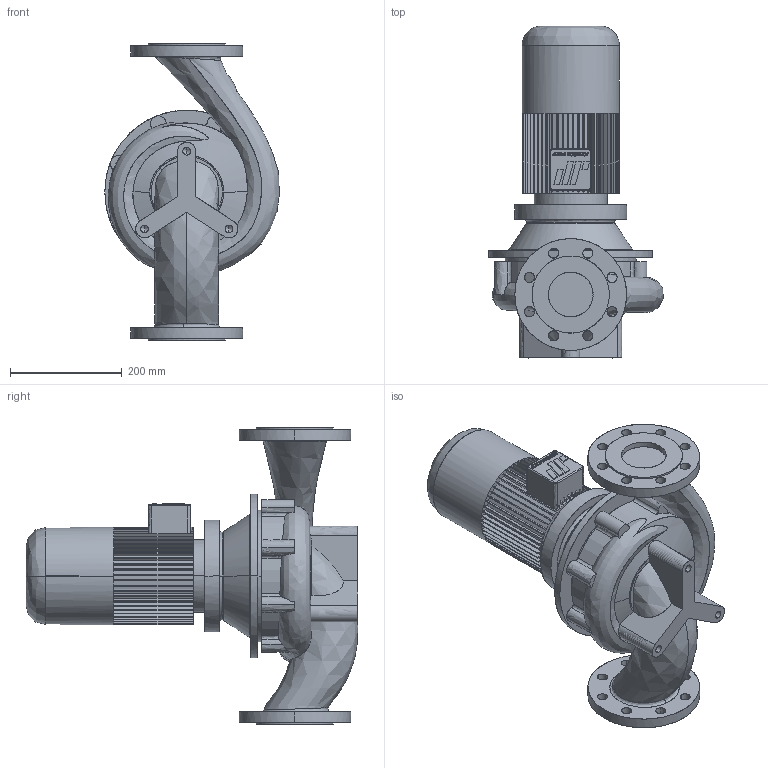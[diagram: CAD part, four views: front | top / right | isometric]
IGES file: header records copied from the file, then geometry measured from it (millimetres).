
Start section: CombiLine
Global section: file name: CLB_80-200_IEC90L_ND10.igs; native system:  By UGS Corp.; preprocessor: XPlus GENERIC/IGES 3.0; author: Stageplaats; organization: Johnson Pump Water B.V.; date: 20070717.084205; units: millimetre
Bounding box: 311.92 x 594 x 530 mm (x, y, z)
Surface area: 929070.3 mm2 (no closed solid volume)
Topology: 0 solids, 0 shells, 557 faces, 3394 edges, 3388 vertices
Faces by surface type: bspline 557
